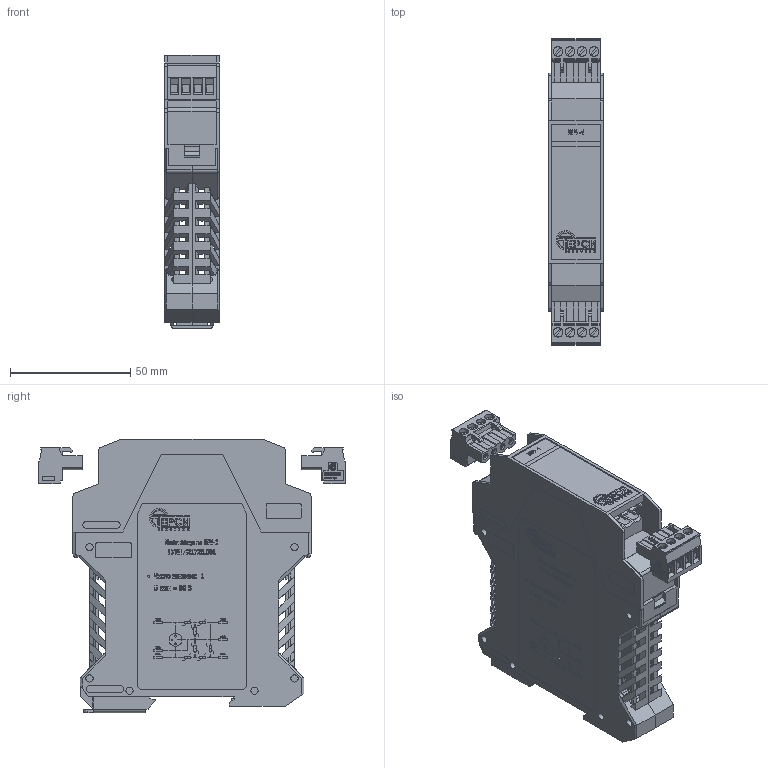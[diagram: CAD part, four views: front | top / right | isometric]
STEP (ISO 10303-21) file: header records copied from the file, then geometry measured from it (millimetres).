
FILE_DESCRIPTION(('STEP AP203'), '1');
FILE_NAME('鍛鍧 BPI-1_', '', ('UNSPECIFIED'), ('UNSPECIFIED'), 'ASCON STEP Converter 1.3', 'ASCON Math Kernel', '');
FILE_SCHEMA(('CONFIG_CONTROL_DESIGN'));
Length unit declared in the file: millimetre
Products named in the file (17): ME_22.5_UT_FE_H.Select__00393870; ME_22.5_UTL_H_H.Select__00392903; ME_22.5_UTR_H_H.Select__00393036; ME_Verriegelungshaken_H.Select__00446697; ME_FUNKTIONSERDKONTAKT_H.Select__00314172; Fussriegel_17.5_L30_H.Select__00315466; ME_22_5_OT-MSTBO_H.Select__00273265; MSTBO_2_5_4-G1L_H.Select__00364411; MSTBO_2_5_4-G1R_H.Select__00364505; ч蜱齁罻; ME_B-22.5_MSTBO_H.Select__00296524; MSTBT_2.5-4-ST
Assembly tree (19 placements, depth 5):
  (unnamed)
    (unnamed)
      (unnamed)
        ME_22.5_UT_FE_H.Select__00393870
          ME_22.5_UTL_H_H.Select__00392903
          ME_22.5_UTR_H_H.Select__00393036
          ME_Verriegelungshaken_H.Select__00446697  x2
          ME_FUNKTIONSERDKONTAKT_H.Select__00314172
          Fussriegel_17.5_L30_H.Select__00315466
      (unnamed)
        ME_22_5_OT-MSTBO_H.Select__00273265
        MSTBO_2_5_4-G1L_H.Select__00364411
        MSTBO_2_5_4-G1R_H.Select__00364505
        ч蜱齁罻  x2
          ME_B-22.5_MSTBO_H.Select__00296524
    MSTBT_2.5-4-ST  x2
      MSTBT_2.5-4-ST
Bounding box: 22.6 x 127.5 x 113.6 mm (x, y, z)
Volume: 60310.6 mm3; surface area: 90230.6 mm2
Topology: 16 solids, 17 shells, 9828 faces, 27838 edges, 18463 vertices
Faces by surface type: plane 6221, cylinder 3317, extrusion 278, cone 12
Full cylindrical faces by diameter (mm): 0.4 x1, 1.2 x1, 1.353 x8, 1.4 x16, 2 x6, 2.8 x16, 3 x12, 3.783 x8, 4 x8
Entity records: 370328 total; most frequent: CARTESIAN_POINT 56302, ORIENTED_EDGE 51314, DIRECTION 49420, EDGE_CURVE 25657, VECTOR 18856, LINE 18615, VERTEX_POINT 17067, AXIS2_PLACEMENT_3D 15282
